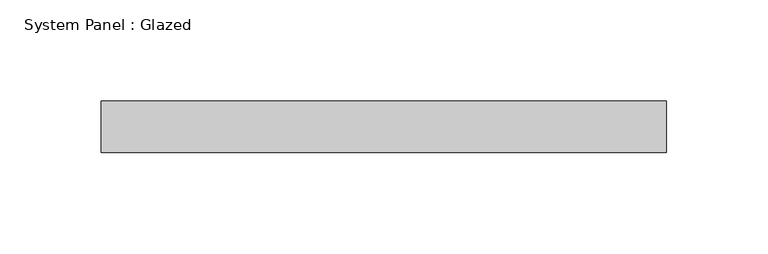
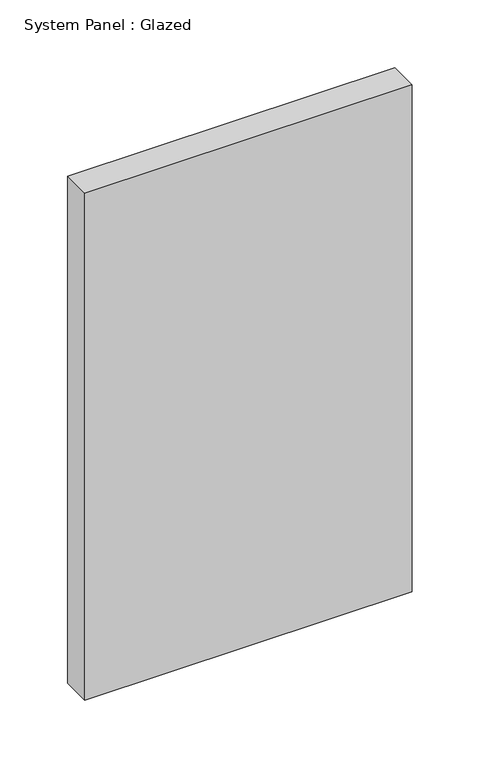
"""IFC4 building model written with IfcOpenShell, lengths in millimetres: plate geometry, System Panel : Glazed."""

from ifc_helpers import new_model, si_unit, origin, origin_with_axes, place, context, project, spatial, polyline, outline, extrude, source, transform, mapped, element, save


def system_panel_glazed_5431d4d7(model_context):
    return source(origin(), model_context, "Body", "SweptSolid", [
        extrude(outline(polyline([(139.6999998, -44.45), (-139.6999998, -44.45), (-139.6999998, -19.05), (139.6999998, -19.05), (139.6999998, -44.45)])), origin_with_axes(), (0.0, 0.0, 1.0), 457.2),
    ])


if __name__ == "__main__":
    model = new_model("IFC4")
    model_context = context("Model", 3, world=origin())
    ifc_project = project(units=[si_unit("LENGTHUNIT", "METRE", prefix="MILLI")], contexts=[model_context])
    site = spatial("IfcSite", under=ifc_project)
    building = spatial("IfcBuilding", under=site)
    placement = place(None, origin())
    system_panel_glazed_shape = system_panel_glazed_5431d4d7(model_context)
    element("IfcPlate", 1, ObjectType="System Panel : Glazed", at=placement, inside=building, context=model_context, shape_type="MappedRepresentation", body=[
        mapped(system_panel_glazed_shape, transform((0.0, 0.0, 0.0), x_axis=(1.0, 0.0, 0.0), y_axis=(0.0, 1.0, 0.0), z_axis=(0.0, 0.0, 1.0))),
    ])
    save(model, "model.ifc")
